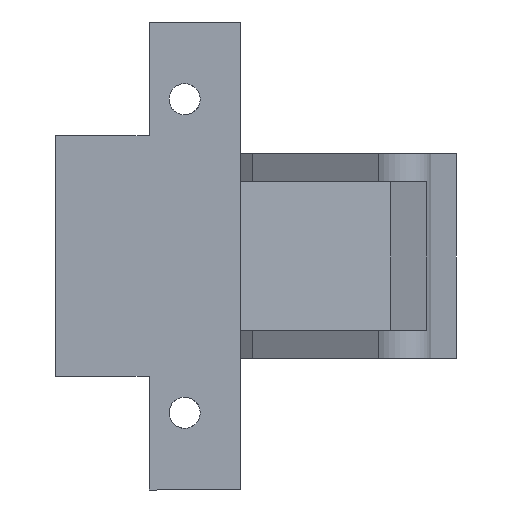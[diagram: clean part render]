
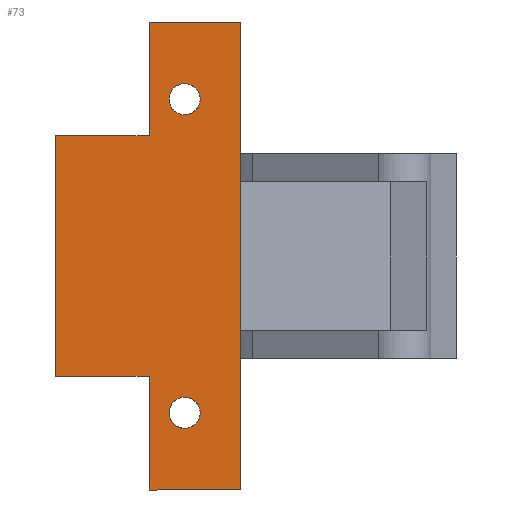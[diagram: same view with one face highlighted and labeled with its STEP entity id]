
A CAD part, front view. The second image highlights one B-rep face of the part: STEP entity #73.
In plain terms, the highlighted planar face has unit normal (0, -1, 0).
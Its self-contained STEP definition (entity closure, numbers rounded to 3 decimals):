
#73 = ADVANCED_FACE ( 'NONE', ( #738, #737, #747 ), #1602, .F. ) ;
#117 = LINE ( 'NONE', #1861, #118 ) ;
#118 = VECTOR ( 'NONE', #1862, 1000. ) ;
#130 = LINE ( 'NONE', #1879, #141 ) ;
#136 = LINE ( 'NONE', #1887, #160 ) ;
#141 = VECTOR ( 'NONE', #1886, 1000. ) ;
#158 = LINE ( 'NONE', #1904, #159 ) ;
#159 = VECTOR ( 'NONE', #1905, 1000. ) ;
#160 = VECTOR ( 'NONE', #1907, 1000. ) ;
#161 = LINE ( 'NONE', #1919, #168 ) ;
#164 = LINE ( 'NONE', #1910, #165 ) ;
#165 = VECTOR ( 'NONE', #1911, 1000. ) ;
#166 = LINE ( 'NONE', #1912, #167 ) ;
#167 = VECTOR ( 'NONE', #1913, 1000. ) ;
#168 = VECTOR ( 'NONE', #1920, 1000. ) ;
#169 = CIRCLE ( 'NONE', #444, 1.39 ) ;
#171 = CIRCLE ( 'NONE', #442, 1.39 ) ;
#176 = LINE ( 'NONE', #1925, #177 ) ;
#177 = VECTOR ( 'NONE', #1926, 1000. ) ;
#421 = AXIS2_PLACEMENT_3D ( 'NONE', #1603, #1604, #1605 ) ;
#429 = AXIS2_PLACEMENT_3D ( 'NONE', #1772, #1773, #1774 ) ;
#435 = AXIS2_PLACEMENT_3D ( 'NONE', #1806, #1808, #1809 ) ;
#442 = AXIS2_PLACEMENT_3D ( 'NONE', #1903, #1917, #1918 ) ;
#444 = AXIS2_PLACEMENT_3D ( 'NONE', #1906, #1914, #1915 ) ;
#467 = EDGE_CURVE ( 'NONE', #1273, #1254, #878, .T. ) ;
#480 = EDGE_CURVE ( 'NONE', #1265, #1262, #895, .T. ) ;
#504 = EDGE_CURVE ( 'NONE', #1365, #1293, #117, .T. ) ;
#516 = EDGE_CURVE ( 'NONE', #1296, #1286, #130, .T. ) ;
#525 = EDGE_CURVE ( 'NONE', #1313, #1302, #158, .T. ) ;
#526 = EDGE_CURVE ( 'NONE', #1365, #1315, #136, .T. ) ;
#528 = EDGE_CURVE ( 'NONE', #1313, #1296, #164, .T. ) ;
#529 = EDGE_CURVE ( 'NONE', #1302, #1300, #166, .T. ) ;
#530 = EDGE_CURVE ( 'NONE', #1262, #1265, #169, .T. ) ;
#531 = EDGE_CURVE ( 'NONE', #1254, #1273, #171, .T. ) ;
#532 = EDGE_CURVE ( 'NONE', #1286, #1293, #161, .T. ) ;
#535 = EDGE_CURVE ( 'NONE', #1315, #1300, #176, .T. ) ;
#601 = EDGE_LOOP ( 'NONE', ( #1066, #1065 ) ) ;
#604 = EDGE_LOOP ( 'NONE', ( #1062, #1061, #1060, #1059, #1058, #1057, #1056, #1055 ) ) ;
#611 = EDGE_LOOP ( 'NONE', ( #1064, #1063 ) ) ;
#737 = FACE_BOUND ( 'NONE', #611, .T. ) ;
#738 = FACE_BOUND ( 'NONE', #601, .T. ) ;
#747 = FACE_OUTER_BOUND ( 'NONE', #604, .T. ) ;
#878 = CIRCLE ( 'NONE', #429, 1.39 ) ;
#895 = CIRCLE ( 'NONE', #435, 1.39 ) ;
#1055 = ORIENTED_EDGE ( 'NONE', *, *, #535, .T. ) ;
#1056 = ORIENTED_EDGE ( 'NONE', *, *, #526, .T. ) ;
#1057 = ORIENTED_EDGE ( 'NONE', *, *, #504, .F. ) ;
#1058 = ORIENTED_EDGE ( 'NONE', *, *, #532, .T. ) ;
#1059 = ORIENTED_EDGE ( 'NONE', *, *, #516, .T. ) ;
#1060 = ORIENTED_EDGE ( 'NONE', *, *, #528, .T. ) ;
#1061 = ORIENTED_EDGE ( 'NONE', *, *, #525, .F. ) ;
#1062 = ORIENTED_EDGE ( 'NONE', *, *, #529, .F. ) ;
#1063 = ORIENTED_EDGE ( 'NONE', *, *, #467, .F. ) ;
#1064 = ORIENTED_EDGE ( 'NONE', *, *, #531, .F. ) ;
#1065 = ORIENTED_EDGE ( 'NONE', *, *, #480, .F. ) ;
#1066 = ORIENTED_EDGE ( 'NONE', *, *, #530, .F. ) ;
#1254 = VERTEX_POINT ( 'NONE', #2054 ) ;
#1262 = VERTEX_POINT ( 'NONE', #2062 ) ;
#1265 = VERTEX_POINT ( 'NONE', #2065 ) ;
#1273 = VERTEX_POINT ( 'NONE', #2073 ) ;
#1286 = VERTEX_POINT ( 'NONE', #2086 ) ;
#1293 = VERTEX_POINT ( 'NONE', #2093 ) ;
#1296 = VERTEX_POINT ( 'NONE', #2096 ) ;
#1300 = VERTEX_POINT ( 'NONE', #2100 ) ;
#1302 = VERTEX_POINT ( 'NONE', #2102 ) ;
#1313 = VERTEX_POINT ( 'NONE', #2113 ) ;
#1315 = VERTEX_POINT ( 'NONE', #2115 ) ;
#1365 = VERTEX_POINT ( 'NONE', #2165 ) ;
#1602 = PLANE ( 'NONE',  #421 ) ;
#1603 = CARTESIAN_POINT ( 'NONE',  ( 19., -11.7, 10.75 ) ) ;
#1604 = DIRECTION ( 'NONE',  ( 0., 1., 0. ) ) ;
#1605 = DIRECTION ( 'NONE',  ( -1., 0., 0. ) ) ;
#1772 = CARTESIAN_POINT ( 'NONE',  ( 14., -11.7, 14. ) ) ;
#1773 = DIRECTION ( 'NONE',  ( 0., -1., 0. ) ) ;
#1774 = DIRECTION ( 'NONE',  ( 0., 0., 1. ) ) ;
#1806 = CARTESIAN_POINT ( 'NONE',  ( 14., -11.7, -14. ) ) ;
#1808 = DIRECTION ( 'NONE',  ( 0., -1., 0. ) ) ;
#1809 = DIRECTION ( 'NONE',  ( 0., 0., 1. ) ) ;
#1861 = CARTESIAN_POINT ( 'NONE',  ( 19., -11.7, -10.75 ) ) ;
#1862 = DIRECTION ( 'NONE',  ( -1., 0., 0. ) ) ;
#1879 = CARTESIAN_POINT ( 'NONE',  ( 19., -11.7, 10.75 ) ) ;
#1886 = DIRECTION ( 'NONE',  ( -1., 0., 0. ) ) ;
#1887 = CARTESIAN_POINT ( 'NONE',  ( 10.82, -11.7, 20.9 ) ) ;
#1903 = CARTESIAN_POINT ( 'NONE',  ( 14., -11.7, 14. ) ) ;
#1904 = CARTESIAN_POINT ( 'NONE',  ( 19., -11.7, 20.9 ) ) ;
#1905 = DIRECTION ( 'NONE',  ( 1., 0., 0. ) ) ;
#1906 = CARTESIAN_POINT ( 'NONE',  ( 14., -11.7, -14. ) ) ;
#1907 = DIRECTION ( 'NONE',  ( 0., 0., -1. ) ) ;
#1910 = CARTESIAN_POINT ( 'NONE',  ( 10.82, -11.7, 20.9 ) ) ;
#1911 = DIRECTION ( 'NONE',  ( 0., 0., -1. ) ) ;
#1912 = CARTESIAN_POINT ( 'NONE',  ( 19., -11.7, 10.75 ) ) ;
#1913 = DIRECTION ( 'NONE',  ( 0., 0., -1. ) ) ;
#1914 = DIRECTION ( 'NONE',  ( 0., -1., 0. ) ) ;
#1915 = DIRECTION ( 'NONE',  ( 0., 0., 1. ) ) ;
#1917 = DIRECTION ( 'NONE',  ( 0., -1., 0. ) ) ;
#1918 = DIRECTION ( 'NONE',  ( 0., 0., 1. ) ) ;
#1919 = CARTESIAN_POINT ( 'NONE',  ( 2.5, -11.7, 10.75 ) ) ;
#1920 = DIRECTION ( 'NONE',  ( 0., 0., -1. ) ) ;
#1925 = CARTESIAN_POINT ( 'NONE',  ( 19., -11.7, -20.9 ) ) ;
#1926 = DIRECTION ( 'NONE',  ( 1., 0., 0. ) ) ;
#2054 = CARTESIAN_POINT ( 'NONE',  ( 14., -11.7, 15.39 ) ) ;
#2062 = CARTESIAN_POINT ( 'NONE',  ( 14., -11.7, -12.61 ) ) ;
#2065 = CARTESIAN_POINT ( 'NONE',  ( 14., -11.7, -15.39 ) ) ;
#2073 = CARTESIAN_POINT ( 'NONE',  ( 14., -11.7, 12.61 ) ) ;
#2086 = CARTESIAN_POINT ( 'NONE',  ( 2.5, -11.7, 10.75 ) ) ;
#2093 = CARTESIAN_POINT ( 'NONE',  ( 2.5, -11.7, -10.75 ) ) ;
#2096 = CARTESIAN_POINT ( 'NONE',  ( 10.82, -11.7, 10.75 ) ) ;
#2100 = CARTESIAN_POINT ( 'NONE',  ( 19., -11.7, -20.9 ) ) ;
#2102 = CARTESIAN_POINT ( 'NONE',  ( 19., -11.7, 20.9 ) ) ;
#2113 = CARTESIAN_POINT ( 'NONE',  ( 10.82, -11.7, 20.9 ) ) ;
#2115 = CARTESIAN_POINT ( 'NONE',  ( 10.82, -11.7, -20.9 ) ) ;
#2165 = CARTESIAN_POINT ( 'NONE',  ( 10.82, -11.7, -10.75 ) ) ;
